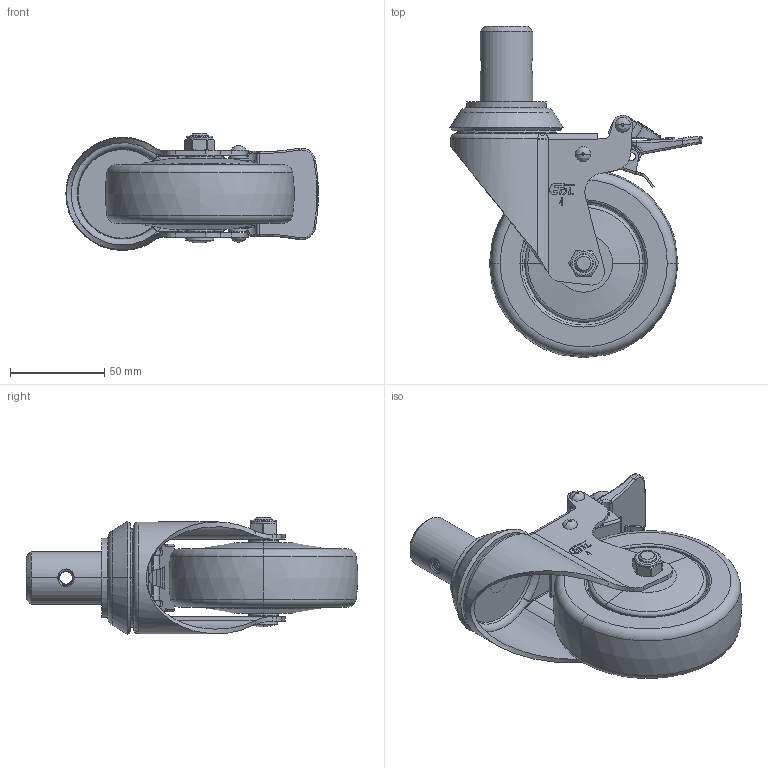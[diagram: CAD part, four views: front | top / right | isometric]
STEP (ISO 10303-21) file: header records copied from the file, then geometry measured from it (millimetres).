
FILE_DESCRIPTION((''),'2;1');
FILE_NAME('57264H-574-77_ASM','2021-01-05T',('lenovo'),(''),'PRO/ENGINEER BY PARAMETRIC TECHNOLOGY CORPORATION, 2010280','PRO/ENGINEER BY PARAMETRIC TECHNOLOGY CORPORATION, 2010280','');
FILE_SCHEMA(('CONFIG_CONTROL_DESIGN'));
Length unit declared in the file: millimetre
Products named in the file (10): 5710-055; 5724-321; 5720-211; 574-77; 5710-020; 5710-031; 570-64OFF; 5734-401; 571-64ON; 57264H-574-77_ASM
Assembly tree (9 placements, depth 2):
  57264H-574-77_ASM
    5710-055
    5724-321
    5720-211
    574-77
    5710-020
    5710-031
    570-64OFF
    5734-401
    571-64ON
Bounding box: 133.6 x 175.41 x 62 mm (x, y, z)
Volume: 354088.7 mm3; surface area: 88684 mm2
Topology: 9 solids, 9 shells, 823 faces, 2158 edges, 1367 vertices
Faces by surface type: plane 378, cylinder 234, bspline 107, cone 62, torus 38, sphere 4
Entity records: 34587 total; most frequent: CARTESIAN_POINT 14920, ORIENTED_EDGE 4304, DIRECTION 3730, EDGE_CURVE 2152, VERTEX_POINT 1365, AXIS2_PLACEMENT_3D 1293, VECTOR 1144, LINE 1144
